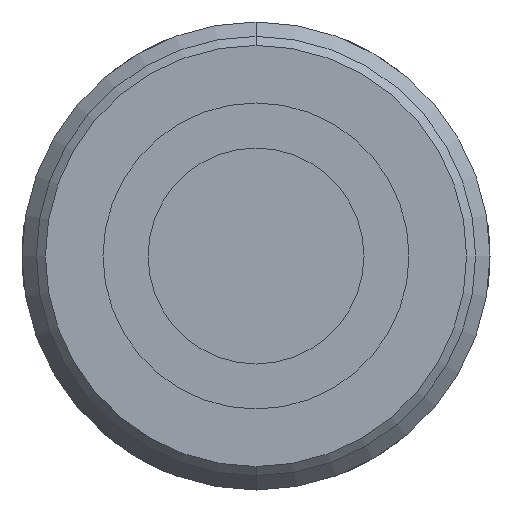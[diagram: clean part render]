
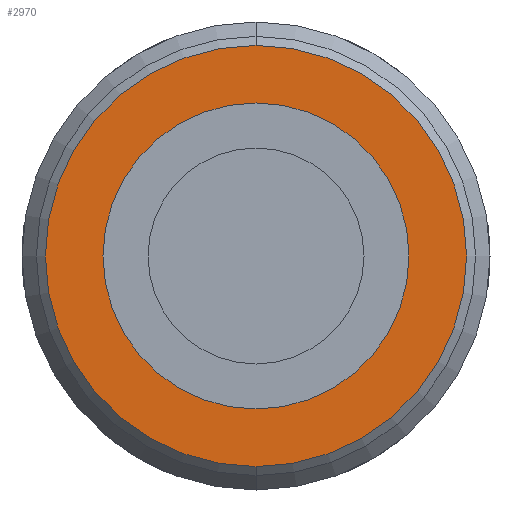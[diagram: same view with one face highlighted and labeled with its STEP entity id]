
A CAD part, front view. The second image highlights one B-rep face of the part: STEP entity #2970.
In plain terms, the highlighted planar face has unit normal (0, -1, 0).
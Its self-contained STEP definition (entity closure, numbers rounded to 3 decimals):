
#481 = AXIS2_PLACEMENT_3D ( 'NONE', #8556, #4775, #11306 ) ;
#490 = DIRECTION ( 'NONE',  ( 0., -1., 0. ) ) ;
#1114 = EDGE_LOOP ( 'NONE', ( #7008, #3312 ) ) ;
#1189 = VERTEX_POINT ( 'NONE', #6544 ) ;
#1851 = ORIENTED_EDGE ( 'NONE', *, *, #9729, .F. ) ;
#2604 = CARTESIAN_POINT ( 'NONE',  ( 0., -19.899, 11.7 ) ) ;
#2970 = ADVANCED_FACE ( 'NONE', ( #12139, #5413 ), #3837, .F. ) ;
#3312 = ORIENTED_EDGE ( 'NONE', *, *, #11315, .T. ) ;
#3470 = AXIS2_PLACEMENT_3D ( 'NONE', #6103, #490, #7068 ) ;
#3837 = PLANE ( 'NONE',  #481 ) ;
#3893 = CARTESIAN_POINT ( 'NONE',  ( 0., -19.899, 0. ) ) ;
#4301 = DIRECTION ( 'NONE',  ( 0., -1., 0. ) ) ;
#4603 = CARTESIAN_POINT ( 'NONE',  ( 0., -19.899, 0. ) ) ;
#4775 = DIRECTION ( 'NONE',  ( 0., 1., 0. ) ) ;
#4842 = DIRECTION ( 'NONE',  ( 0., 0., -1. ) ) ;
#5413 = FACE_OUTER_BOUND ( 'NONE', #1114, .T. ) ;
#5527 = DIRECTION ( 'NONE',  ( 0., 0., -1. ) ) ;
#5917 = AXIS2_PLACEMENT_3D ( 'NONE', #9911, #4301, #10835 ) ;
#6103 = CARTESIAN_POINT ( 'NONE',  ( 0., -19.899, 0. ) ) ;
#6486 = VERTEX_POINT ( 'NONE', #10382 ) ;
#6544 = CARTESIAN_POINT ( 'NONE',  ( 0., -19.899, -11.7 ) ) ;
#6578 = CARTESIAN_POINT ( 'NONE',  ( 0., -19.899, -8.5 ) ) ;
#6720 = AXIS2_PLACEMENT_3D ( 'NONE', #3893, #10450, #4842 ) ;
#7008 = ORIENTED_EDGE ( 'NONE', *, *, #11201, .T. ) ;
#7068 = DIRECTION ( 'NONE',  ( 0., 0., -1. ) ) ;
#7253 = AXIS2_PLACEMENT_3D ( 'NONE', #4603, #11132, #5527 ) ;
#7479 = VERTEX_POINT ( 'NONE', #6578 ) ;
#8388 = CIRCLE ( 'NONE', #7253, 11.7 ) ;
#8556 = CARTESIAN_POINT ( 'NONE',  ( -11.7, -19.899, 0. ) ) ;
#8929 = EDGE_LOOP ( 'NONE', ( #1851, #11969 ) ) ;
#9729 = EDGE_CURVE ( 'NONE', #7479, #6486, #10277, .T. ) ;
#9911 = CARTESIAN_POINT ( 'NONE',  ( 0., -19.899, 0. ) ) ;
#10277 = CIRCLE ( 'NONE', #5917, 8.5 ) ;
#10382 = CARTESIAN_POINT ( 'NONE',  ( 0., -19.899, 8.5 ) ) ;
#10450 = DIRECTION ( 'NONE',  ( 0., -1., 0. ) ) ;
#10604 = EDGE_CURVE ( 'NONE', #6486, #7479, #11838, .T. ) ;
#10776 = VERTEX_POINT ( 'NONE', #2604 ) ;
#10835 = DIRECTION ( 'NONE',  ( 0., 0., -1. ) ) ;
#11132 = DIRECTION ( 'NONE',  ( 0., -1., 0. ) ) ;
#11201 = EDGE_CURVE ( 'NONE', #10776, #1189, #11687, .T. ) ;
#11306 = DIRECTION ( 'NONE',  ( 0., 0., 1. ) ) ;
#11315 = EDGE_CURVE ( 'NONE', #1189, #10776, #8388, .T. ) ;
#11687 = CIRCLE ( 'NONE', #3470, 11.7 ) ;
#11838 = CIRCLE ( 'NONE', #6720, 8.5 ) ;
#11969 = ORIENTED_EDGE ( 'NONE', *, *, #10604, .F. ) ;
#12139 = FACE_BOUND ( 'NONE', #8929, .T. ) ;
